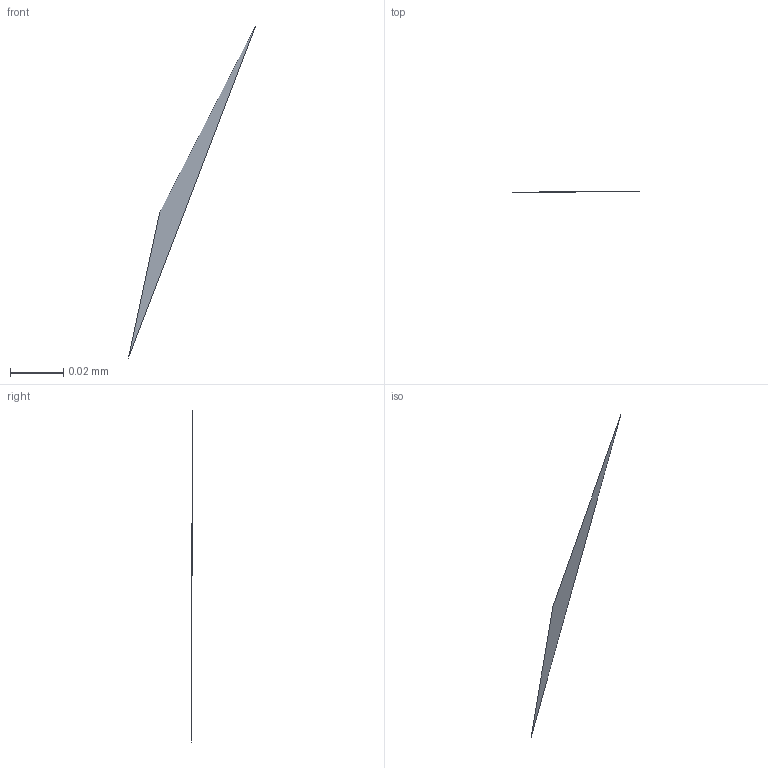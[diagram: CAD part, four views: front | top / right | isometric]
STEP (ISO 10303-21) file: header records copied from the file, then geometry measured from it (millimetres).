
FILE_DESCRIPTION(/* description */ ('STEP AP242 Edition 2','CAx-IF Rec.Pracs.---Representation and Presentation of Product Manufacturing Information (PMI)---4.0---2014-10-13','CAx-IF Rec.Pracs.---3D Tessellated Geometry---0.4---2014-09-14','2;1','CAx-IF Rec.Pracs.---User Defined Attributes---1.5---2016-08-15'),/* implementation_level */ '2;1');
FILE_NAME(/* name */ 'Assembly 1 - Part 60',/* time_stamp */ '2026-03-29T21:14:58Z',/* author */ (''),/* organization */ (''),/* preprocessor_version */ 'ST-DEVELOPER v20',/* originating_system */ 'ONSHAPE BY PTC INC, 1.212',/* authorisation */ ' ');
FILE_SCHEMA (('AP242_MANAGED_MODEL_BASED_3D_ENGINEERING_MIM_LF { 1 0 10303 442 3 1 4 }'));
Length unit declared in the file: metre
Products named in the file (1): Part 60
Bounding box: 0.05 x 0 x 0.12 mm (x, y, z)
Surface area: 0 mm2 (no closed solid volume)
Topology: 0 solids, 1 shells, 1 faces, 0 edges, 0 vertices
Faces by surface type: other 1
Entity records: 31 total; most frequent: DIRECTION 2, SHAPE_REPRESENTATION_RELATIONSHIP 1, TESSELLATED_SHAPE_REPRESENTATION 1, STYLED_ITEM 1, PRESENTATION_STYLE_ASSIGNMENT 1, SURFACE_STYLE_USAGE 1, SURFACE_SIDE_STYLE 1, SURFACE_STYLE_FILL_AREA 1
